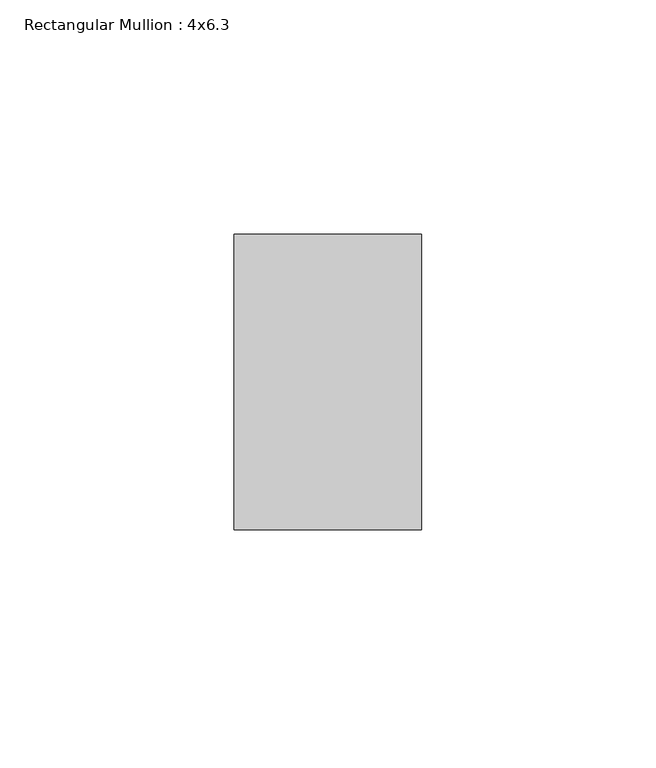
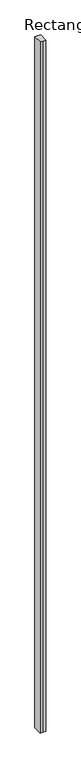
"""IFC4 building model written with IfcOpenShell, lengths in millimetres: member geometry, Rectangular Mullion : 4x6.3."""

from ifc_helpers import new_model, si_unit, frame, origin, place, context, project, spatial, polyline, outline, extrude, source, transform, mapped, element, save


def rectangular_mullion_4x6_3_46ca07be(model_context):
    return source(origin(), model_context, "Body", "SweptSolid", [
        extrude(outline(polyline([(-20.0, 20.0), (-20.0, 83.0), (20.0, 83.0), (20.0, 20.0), (0.0, 20.0), (-20.0, 20.0)])), frame((0.0, 0.0, -5129.4554267), z_axis=(0.0, 0.0, 1.0), x_axis=(1.0, 0.0, 0.0)), (0.0, 0.0, 1.0), 5129.4554267),
    ])


if __name__ == "__main__":
    model = new_model("IFC4")
    model_context = context("Model", 3, world=origin())
    ifc_project = project(units=[si_unit("LENGTHUNIT", "METRE", prefix="MILLI")], contexts=[model_context])
    site = spatial("IfcSite", under=ifc_project)
    building = spatial("IfcBuilding", under=site)
    placement = place(None, origin())
    rectangular_mullion_4x6_3_shape = rectangular_mullion_4x6_3_46ca07be(model_context)
    element("IfcMember", 1, ObjectType="Rectangular Mullion : 4x6.3", at=placement, inside=building, context=model_context, shape_type="MappedRepresentation", body=[
        mapped(rectangular_mullion_4x6_3_shape, transform((0.0, 0.0, 0.0), x_axis=(1.0, 0.0, 0.0), y_axis=(0.0, 1.0, 0.0), z_axis=(0.0, 0.0, 1.0))),
    ])
    save(model, "model.ifc")
